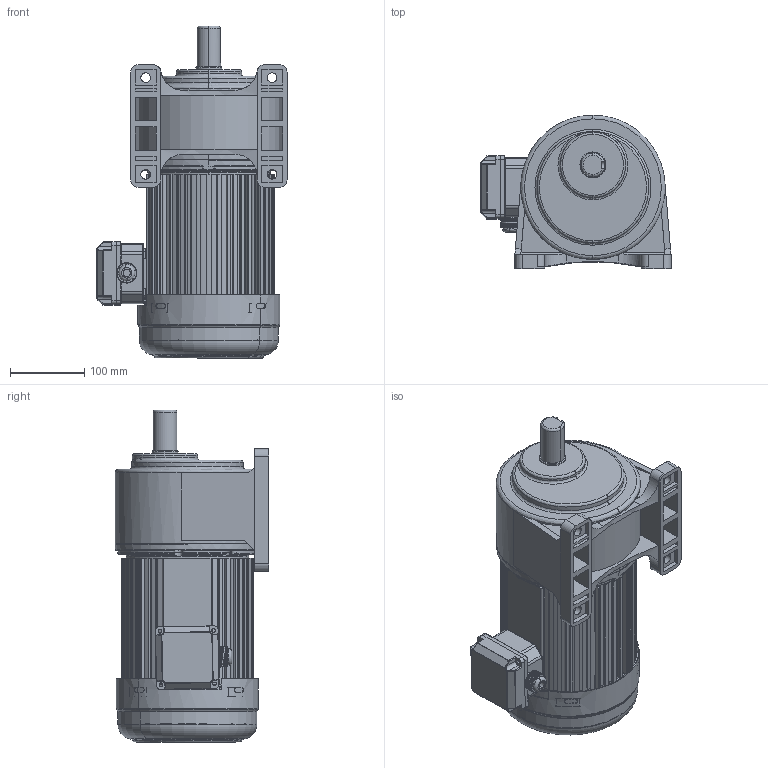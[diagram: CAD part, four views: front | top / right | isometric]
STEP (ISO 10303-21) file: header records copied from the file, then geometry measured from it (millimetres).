
FILE_DESCRIPTION (( 'STEP AP203' ), '1' );
FILE_NAME ('1.STEP', '2020-04-16T08:20:25', ( 'china' ), ( 'china' ), 'SwSTEP 2.0', 'SolidWorks 2019', '' );
FILE_SCHEMA (( 'CONFIG_CONTROL_DESIGN' ));
Length unit declared in the file: millimetre
Products named in the file (9): 4#拏宒眊极; 瑞欶; 1; 蜊輛綴諉盄碟釱3; 諉芛; 湍价陬諉盄碟裔; 1500W棠憤迖殤; 4-xg3-0926; 1500W儂褲
Assembly tree (8 placements, depth 2):
  1
    1500W儂褲
    瑞欶
    蜊輛綴諉盄碟釱3
    諉芛
    湍价陬諉盄碟裔
    1500W棠憤迖殤
    4-xg3-0926
    4#拏宒眊极
Bounding box: 255.51 x 206.5 x 446.45 mm (x, y, z)
Volume: 4776257.7 mm3; surface area: 949489.2 mm2
Topology: 7 solids, 8 shells, 3268 faces, 8645 edges, 5332 vertices
Faces by surface type: plane 1230, cylinder 998, bspline 472, torus 306, cone 200, sphere 62
Entity records: 214319 total; most frequent: CARTESIAN_POINT 136641, ORIENTED_EDGE 17043, DIRECTION 14418, EDGE_CURVE 8523, VERTEX_POINT 5332, AXIS2_PLACEMENT_3D 5176, VECTOR 4066, LINE 4066
